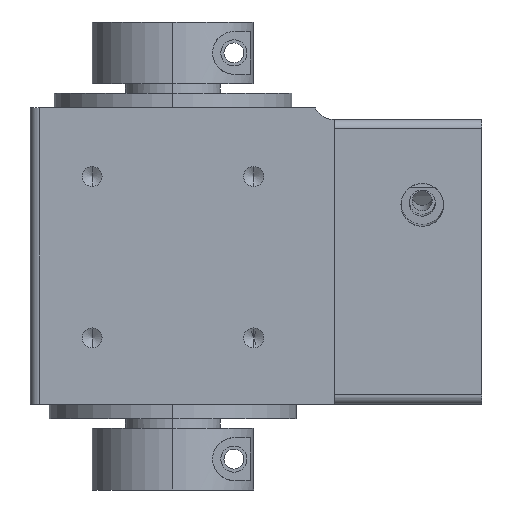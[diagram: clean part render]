
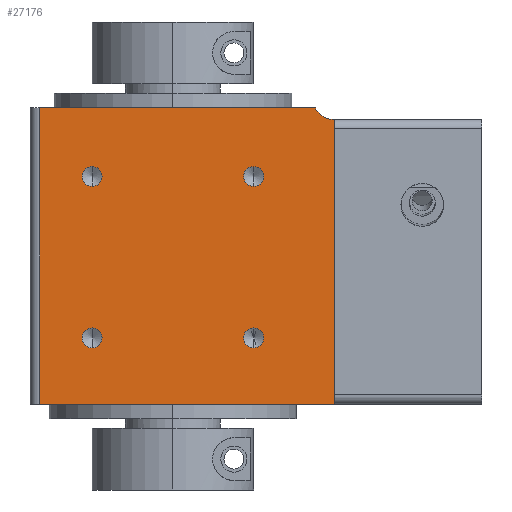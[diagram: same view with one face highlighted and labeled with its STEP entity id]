
A CAD part, left-side view. The second image highlights one B-rep face of the part: STEP entity #27176.
In plain terms, the highlighted planar face has unit normal (-1, 0, 0).
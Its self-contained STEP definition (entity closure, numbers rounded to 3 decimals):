
#1575 = DIRECTION ( 'NONE',  ( 0., -1., 0. ) ) ;
#2394 = DIRECTION ( 'NONE',  ( 0., 0., 1. ) ) ;
#2669 = CARTESIAN_POINT ( 'NONE',  ( -30., -32., 3. ) ) ;
#3362 = CARTESIAN_POINT ( 'NONE',  ( -30., -15., 48.9 ) ) ;
#3369 = DIRECTION ( 'NONE',  ( 0., 0., 1. ) ) ;
#3469 = ORIENTED_EDGE ( 'NONE', *, *, #55351, .T. ) ;
#3769 = CARTESIAN_POINT ( 'NONE',  ( -30., 0., 3. ) ) ;
#3897 = AXIS2_PLACEMENT_3D ( 'NONE', #4333, #35877, #8888 ) ;
#4333 = CARTESIAN_POINT ( 'NONE',  ( -30., -32., 67.45 ) ) ;
#4572 = DIRECTION ( 'NONE',  ( -1., 0., 0. ) ) ;
#5765 = CARTESIAN_POINT ( 'NONE',  ( -30., 19., 14.9 ) ) ;
#7124 = LINE ( 'NONE', #3769, #52253 ) ;
#7392 = AXIS2_PLACEMENT_3D ( 'NONE', #40639, #13660, #45148 ) ;
#7400 = CIRCLE ( 'NONE', #37281, 2.1 ) ;
#7671 = AXIS2_PLACEMENT_3D ( 'NONE', #17584, #49081, #22122 ) ;
#8586 = DIRECTION ( 'NONE',  ( -1., 0., 0. ) ) ;
#8888 = DIRECTION ( 'NONE',  ( 0., 0., 1. ) ) ;
#8921 = CIRCLE ( 'NONE', #49570, 2.1 ) ;
#9776 = EDGE_CURVE ( 'NONE', #40684, #16000, #12111, .T. ) ;
#9912 = FACE_BOUND ( 'NONE', #36403, .T. ) ;
#9976 = CARTESIAN_POINT ( 'NONE',  ( -30., 30., 3. ) ) ;
#11148 = EDGE_CURVE ( 'NONE', #31295, #53156, #53621, .T. ) ;
#12111 = LINE ( 'NONE', #24085, #46608 ) ;
#13048 = PLANE ( 'NONE',  #7671 ) ;
#13234 = CARTESIAN_POINT ( 'NONE',  ( -30., -27.944, 65.5 ) ) ;
#13551 = CARTESIAN_POINT ( 'NONE',  ( -30., -15., 17. ) ) ;
#13660 = DIRECTION ( 'NONE',  ( -1., 0., 0. ) ) ;
#14803 = DIRECTION ( 'NONE',  ( -1., 0., 0. ) ) ;
#14974 = VERTEX_POINT ( 'NONE', #31284 ) ;
#16000 = VERTEX_POINT ( 'NONE', #13234 ) ;
#16804 = DIRECTION ( 'NONE',  ( 0., 1., 0. ) ) ;
#16946 = EDGE_CURVE ( 'NONE', #17336, #28631, #52754, .T. ) ;
#17052 = CARTESIAN_POINT ( 'NONE',  ( -30., 30., 65.5 ) ) ;
#17176 = VECTOR ( 'NONE', #46973, 1000. ) ;
#17336 = VERTEX_POINT ( 'NONE', #48854 ) ;
#17584 = CARTESIAN_POINT ( 'NONE',  ( -30., -32., 68.5 ) ) ;
#18081 = DIRECTION ( 'NONE',  ( 0., 0., 1. ) ) ;
#19294 = LINE ( 'NONE', #30370, #53875 ) ;
#19536 = AXIS2_PLACEMENT_3D ( 'NONE', #56409, #29397, #2394 ) ;
#20047 = EDGE_CURVE ( 'NONE', #41132, #30657, #7400, .T. ) ;
#21386 = ORIENTED_EDGE ( 'NONE', *, *, #35412, .F. ) ;
#21927 = FACE_OUTER_BOUND ( 'NONE', #24733, .T. ) ;
#22122 = DIRECTION ( 'NONE',  ( 0., 0., -1. ) ) ;
#22189 = ORIENTED_EDGE ( 'NONE', *, *, #20047, .F. ) ;
#22679 = ORIENTED_EDGE ( 'NONE', *, *, #24730, .F. ) ;
#24085 = CARTESIAN_POINT ( 'NONE',  ( -30., 0., 65.5 ) ) ;
#24409 = ORIENTED_EDGE ( 'NONE', *, *, #52111, .F. ) ;
#24411 = CARTESIAN_POINT ( 'NONE',  ( -30., -15., 17. ) ) ;
#24730 = EDGE_CURVE ( 'NONE', #27938, #50159, #7124, .T. ) ;
#24733 = EDGE_LOOP ( 'NONE', ( #33750, #40217, #26974, #22679, #3469 ) ) ;
#24825 = EDGE_LOOP ( 'NONE', ( #37512, #22189 ) ) ;
#25744 = DIRECTION ( 'NONE',  ( -1., 0., 0. ) ) ;
#25784 = ORIENTED_EDGE ( 'NONE', *, *, #16946, .F. ) ;
#26974 = ORIENTED_EDGE ( 'NONE', *, *, #54789, .F. ) ;
#27079 = CIRCLE ( 'NONE', #30992, 2.1 ) ;
#27176 = ADVANCED_FACE ( 'NONE', ( #21927, #45841, #57886, #9912, #33894 ), #13048, .F. ) ;
#27938 = VERTEX_POINT ( 'NONE', #2669 ) ;
#28631 = VERTEX_POINT ( 'NONE', #32106 ) ;
#28911 = DIRECTION ( 'NONE',  ( 0., 0., 1. ) ) ;
#29397 = DIRECTION ( 'NONE',  ( -1., 0., 0. ) ) ;
#30370 = CARTESIAN_POINT ( 'NONE',  ( -30., 30., 68.5 ) ) ;
#30657 = VERTEX_POINT ( 'NONE', #42163 ) ;
#30992 = AXIS2_PLACEMENT_3D ( 'NONE', #35577, #8586, #40114 ) ;
#31284 = CARTESIAN_POINT ( 'NONE',  ( -30., 19., 19.1 ) ) ;
#31295 = VERTEX_POINT ( 'NONE', #47666 ) ;
#31571 = CARTESIAN_POINT ( 'NONE',  ( -30., 19., 51. ) ) ;
#32106 = CARTESIAN_POINT ( 'NONE',  ( -30., 19., 48.9 ) ) ;
#33164 = VERTEX_POINT ( 'NONE', #5765 ) ;
#33750 = ORIENTED_EDGE ( 'NONE', *, *, #51183, .T. ) ;
#33894 = FACE_BOUND ( 'NONE', #24825, .T. ) ;
#34033 = CIRCLE ( 'NONE', #19536, 2.1 ) ;
#35325 = ORIENTED_EDGE ( 'NONE', *, *, #43863, .F. ) ;
#35412 = EDGE_CURVE ( 'NONE', #28631, #17336, #27079, .T. ) ;
#35577 = CARTESIAN_POINT ( 'NONE',  ( -30., 19., 51. ) ) ;
#35877 = DIRECTION ( 'NONE',  ( 1., 0., 0. ) ) ;
#36124 = DIRECTION ( 'NONE',  ( 0., 0., 1. ) ) ;
#36403 = EDGE_LOOP ( 'NONE', ( #25784, #21386 ) ) ;
#37281 = AXIS2_PLACEMENT_3D ( 'NONE', #52713, #25744, #57263 ) ;
#37512 = ORIENTED_EDGE ( 'NONE', *, *, #52327, .F. ) ;
#38618 = EDGE_CURVE ( 'NONE', #53156, #31295, #8921, .T. ) ;
#39545 = CARTESIAN_POINT ( 'NONE',  ( -30., -15., 14.9 ) ) ;
#40114 = DIRECTION ( 'NONE',  ( 0., 0., 1. ) ) ;
#40217 = ORIENTED_EDGE ( 'NONE', *, *, #9776, .F. ) ;
#40405 = AXIS2_PLACEMENT_3D ( 'NONE', #24411, #55935, #28911 ) ;
#40639 = CARTESIAN_POINT ( 'NONE',  ( -30., 19., 17. ) ) ;
#40684 = VERTEX_POINT ( 'NONE', #17052 ) ;
#41132 = VERTEX_POINT ( 'NONE', #3362 ) ;
#41790 = CARTESIAN_POINT ( 'NONE',  ( -30., -15., 51. ) ) ;
#42163 = CARTESIAN_POINT ( 'NONE',  ( -30., -15., 53.1 ) ) ;
#42440 = CARTESIAN_POINT ( 'NONE',  ( -30., -32., 68.5 ) ) ;
#43645 = AXIS2_PLACEMENT_3D ( 'NONE', #41790, #14803, #46309 ) ;
#43863 = EDGE_CURVE ( 'NONE', #14974, #33164, #34033, .T. ) ;
#44681 = VERTEX_POINT ( 'NONE', #49554 ) ;
#45045 = DIRECTION ( 'NONE',  ( -1., 0., 0. ) ) ;
#45148 = DIRECTION ( 'NONE',  ( 0., 0., 1. ) ) ;
#45841 = FACE_BOUND ( 'NONE', #52553, .T. ) ;
#46309 = DIRECTION ( 'NONE',  ( 0., 0., 1. ) ) ;
#46608 = VECTOR ( 'NONE', #1575, 1000. ) ;
#46973 = DIRECTION ( 'NONE',  ( 0., 0., 1. ) ) ;
#47047 = ORIENTED_EDGE ( 'NONE', *, *, #38618, .F. ) ;
#47666 = CARTESIAN_POINT ( 'NONE',  ( -30., -15., 19.1 ) ) ;
#47670 = CIRCLE ( 'NONE', #7392, 2.1 ) ;
#48518 = AXIS2_PLACEMENT_3D ( 'NONE', #31571, #4572, #36124 ) ;
#48854 = CARTESIAN_POINT ( 'NONE',  ( -30., 19., 53.1 ) ) ;
#48861 = LINE ( 'NONE', #42440, #17176 ) ;
#49081 = DIRECTION ( 'NONE',  ( 1., 0., 0. ) ) ;
#49554 = CARTESIAN_POINT ( 'NONE',  ( -30., -32., 62.95 ) ) ;
#49570 = AXIS2_PLACEMENT_3D ( 'NONE', #13551, #45045, #18081 ) ;
#50159 = VERTEX_POINT ( 'NONE', #9976 ) ;
#51183 = EDGE_CURVE ( 'NONE', #44681, #16000, #53404, .T. ) ;
#52111 = EDGE_CURVE ( 'NONE', #33164, #14974, #47670, .T. ) ;
#52253 = VECTOR ( 'NONE', #16804, 1000. ) ;
#52327 = EDGE_CURVE ( 'NONE', #30657, #41132, #54027, .T. ) ;
#52553 = EDGE_LOOP ( 'NONE', ( #57125, #47047 ) ) ;
#52713 = CARTESIAN_POINT ( 'NONE',  ( -30., -15., 51. ) ) ;
#52754 = CIRCLE ( 'NONE', #48518, 2.1 ) ;
#53156 = VERTEX_POINT ( 'NONE', #39545 ) ;
#53404 = CIRCLE ( 'NONE', #3897, 4.5 ) ;
#53621 = CIRCLE ( 'NONE', #40405, 2.1 ) ;
#53875 = VECTOR ( 'NONE', #3369, 1000. ) ;
#54027 = CIRCLE ( 'NONE', #43645, 2.1 ) ;
#54378 = EDGE_LOOP ( 'NONE', ( #35325, #24409 ) ) ;
#54789 = EDGE_CURVE ( 'NONE', #50159, #40684, #19294, .T. ) ;
#55351 = EDGE_CURVE ( 'NONE', #27938, #44681, #48861, .T. ) ;
#55935 = DIRECTION ( 'NONE',  ( -1., 0., 0. ) ) ;
#56409 = CARTESIAN_POINT ( 'NONE',  ( -30., 19., 17. ) ) ;
#57125 = ORIENTED_EDGE ( 'NONE', *, *, #11148, .F. ) ;
#57263 = DIRECTION ( 'NONE',  ( 0., 0., 1. ) ) ;
#57886 = FACE_BOUND ( 'NONE', #54378, .T. ) ;
